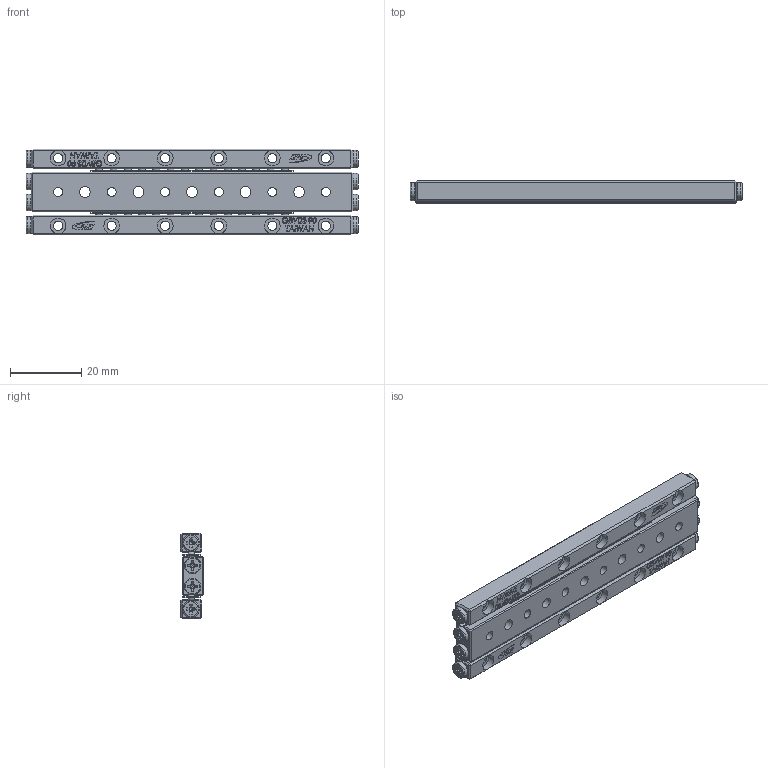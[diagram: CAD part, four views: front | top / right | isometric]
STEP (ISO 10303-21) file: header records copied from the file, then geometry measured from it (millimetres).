
FILE_DESCRIPTION (( 'STEP AP203' ), '1' );
FILE_NAME ('GBD02-90.STEP', '2023-09-22T02:15:13', ( '' ), ( '' ), 'SwSTEP 2.0', 'SolidWorks 2019', '' );
FILE_SCHEMA (( 'CONFIG_CONTROL_DESIGN' ));
Length unit declared in the file: millimetre
Products named in the file (4): GBD02-90; GBV02-90-模糊化軌道; GBD02-90-模糊化中軌; GBV02-90-模糊化保持器組
Assembly tree (5 placements, depth 2):
  GBD02-90
    GBD02-90-模糊化中軌
    GBV02-90-模糊化軌道  x2
    GBV02-90-模糊化保持器組  x2
Bounding box: 93 x 6.5 x 24 mm (x, y, z)
Volume: 10665.7 mm3; surface area: 10419 mm2
Topology: 5 solids, 5 shells, 1152 faces, 2819 edges, 1818 vertices
Faces by surface type: plane 756, bspline 201, cone 72, sphere 56, cylinder 51, torus 16
Full cylindrical faces by diameter (mm): 2.55 x18, 3 x5, 4.4 x18, 4.7 x8
Entity records: 30359 total; most frequent: CARTESIAN_POINT 12674, ORIENTED_EDGE 3698, DIRECTION 3031, EDGE_CURVE 1849, VECTOR 1237, LINE 1237, VERTEX_POINT 1212, EDGE_LOOP 957
